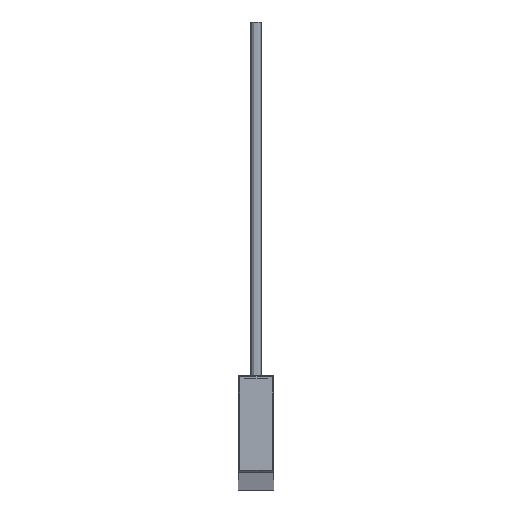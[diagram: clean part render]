
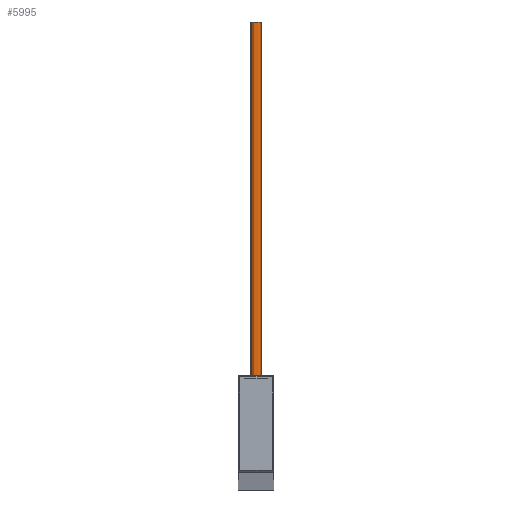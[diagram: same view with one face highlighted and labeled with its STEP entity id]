
A CAD part, top view. The second image highlights one B-rep face of the part: STEP entity #5995.
In plain terms, the highlighted cylindrical face has radius 1.5 mm (diameter 3 mm), a partial arc.
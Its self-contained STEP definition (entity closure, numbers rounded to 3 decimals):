
#186 = DIRECTION ( 'NONE',  ( -1., 0., 0. ) ) ;
#542 = DIRECTION ( 'NONE',  ( 1., 0., 0. ) ) ;
#559 = VERTEX_POINT ( 'NONE', #5180 ) ;
#597 = VERTEX_POINT ( 'NONE', #4911 ) ;
#724 = LINE ( 'NONE', #4063, #7519 ) ;
#982 = CIRCLE ( 'NONE', #8644, 1.5 ) ;
#1919 = VERTEX_POINT ( 'NONE', #2263 ) ;
#2072 = DIRECTION ( 'NONE',  ( 0., -1., 0. ) ) ;
#2182 = ORIENTED_EDGE ( 'NONE', *, *, #6104, .F. ) ;
#2263 = CARTESIAN_POINT ( 'NONE',  ( -35.284, 124.406, 2060. ) ) ;
#2353 = DIRECTION ( 'NONE',  ( 0., -1., 0. ) ) ;
#2757 = EDGE_CURVE ( 'NONE', #1919, #9196, #5631, .T. ) ;
#2965 = CARTESIAN_POINT ( 'NONE',  ( -35.284, 25.406, 2060. ) ) ;
#3172 = ORIENTED_EDGE ( 'NONE', *, *, #3728, .T. ) ;
#3679 = VECTOR ( 'NONE', #7455, 1000. ) ;
#3728 = EDGE_CURVE ( 'NONE', #559, #597, #724, .T. ) ;
#3841 = AXIS2_PLACEMENT_3D ( 'NONE', #9237, #4872, #542 ) ;
#4063 = CARTESIAN_POINT ( 'NONE',  ( -38.284, 124.406, 2060. ) ) ;
#4782 = DIRECTION ( 'NONE',  ( 0., -1., 0. ) ) ;
#4872 = DIRECTION ( 'NONE',  ( 0., 1., 0. ) ) ;
#4911 = CARTESIAN_POINT ( 'NONE',  ( -38.284, 25.406, 2060. ) ) ;
#5173 = EDGE_CURVE ( 'NONE', #9196, #597, #982, .T. ) ;
#5180 = CARTESIAN_POINT ( 'NONE',  ( -38.284, 124.406, 2060. ) ) ;
#5260 = CARTESIAN_POINT ( 'NONE',  ( -35.284, 124.406, 2060. ) ) ;
#5266 = CYLINDRICAL_SURFACE ( 'NONE', #7429, 1.5 ) ;
#5631 = LINE ( 'NONE', #5260, #3679 ) ;
#5995 = ADVANCED_FACE ( 'NONE', ( #7436 ), #5266, .T. ) ;
#5997 = CARTESIAN_POINT ( 'NONE',  ( -36.784, 124.406, 2060. ) ) ;
#6104 = EDGE_CURVE ( 'NONE', #559, #1919, #8232, .T. ) ;
#6429 = CARTESIAN_POINT ( 'NONE',  ( -36.784, 25.406, 2060. ) ) ;
#7164 = DIRECTION ( 'NONE',  ( 0., 0., 1. ) ) ;
#7170 = ORIENTED_EDGE ( 'NONE', *, *, #5173, .F. ) ;
#7385 = EDGE_LOOP ( 'NONE', ( #8540, #2182, #3172, #7170 ) ) ;
#7429 = AXIS2_PLACEMENT_3D ( 'NONE', #5997, #2353, #186 ) ;
#7436 = FACE_OUTER_BOUND ( 'NONE', #7385, .T. ) ;
#7455 = DIRECTION ( 'NONE',  ( 0., -1., 0. ) ) ;
#7519 = VECTOR ( 'NONE', #4782, 1000. ) ;
#8232 = CIRCLE ( 'NONE', #3841, 1.5 ) ;
#8540 = ORIENTED_EDGE ( 'NONE', *, *, #2757, .F. ) ;
#8644 = AXIS2_PLACEMENT_3D ( 'NONE', #6429, #2072, #7164 ) ;
#9196 = VERTEX_POINT ( 'NONE', #2965 ) ;
#9237 = CARTESIAN_POINT ( 'NONE',  ( -36.784, 124.406, 2060. ) ) ;
